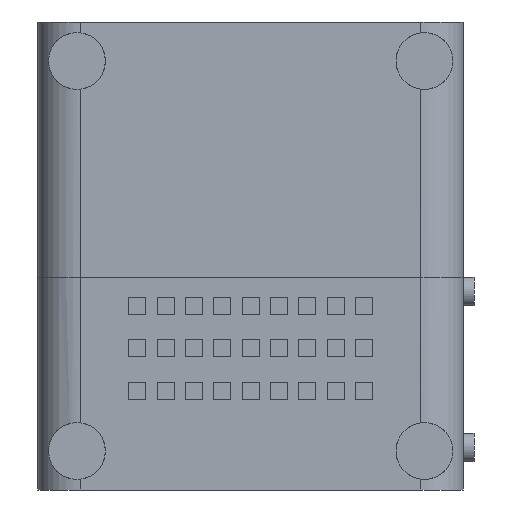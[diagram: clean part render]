
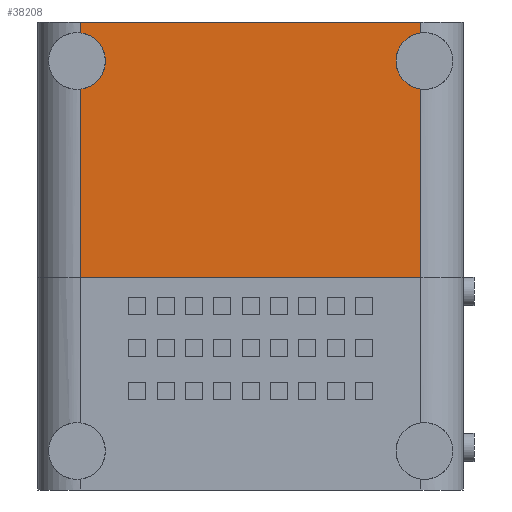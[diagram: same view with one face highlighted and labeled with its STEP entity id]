
A CAD part, front view. The second image highlights one B-rep face of the part: STEP entity #38208.
In plain terms, the highlighted planar face has unit normal (0, -1, 0).
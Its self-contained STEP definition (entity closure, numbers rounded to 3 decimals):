
#37822 = CYLINDRICAL_SURFACE('',#37823,4.);
#37823 = AXIS2_PLACEMENT_3D('',#37824,#37825,#37826);
#37824 = CARTESIAN_POINT('',(54.5,-2.,60.5));
#37825 = DIRECTION('',(0.,1.,0.));
#37826 = DIRECTION('',(0.,-0.,1.));
#37868 = CYLINDRICAL_SURFACE('',#37869,6.);
#37869 = AXIS2_PLACEMENT_3D('',#37870,#37871,#37872);
#37870 = CARTESIAN_POINT('',(54.,6.,30.));
#37871 = DIRECTION('',(-0.,-0.,-1.));
#37872 = DIRECTION('',(0.,-1.,0.));
#37935 = VERTEX_POINT('',#37936);
#37936 = CARTESIAN_POINT('',(54.,0.,64.469));
#37972 = EDGE_CURVE('',#37973,#37935,#37975,.T.);
#37973 = VERTEX_POINT('',#37974);
#37974 = CARTESIAN_POINT('',(54.,0.,56.531));
#37975 = SURFACE_CURVE('',#37976,(#37981,#37988),.PCURVE_S1.);
#37976 = CIRCLE('',#37977,4.);
#37977 = AXIS2_PLACEMENT_3D('',#37978,#37979,#37980);
#37978 = CARTESIAN_POINT('',(54.5,0.,60.5));
#37979 = DIRECTION('',(0.,1.,0.));
#37980 = DIRECTION('',(0.,-0.,1.));
#37981 = PCURVE('',#37822,#37982);
#37982 = DEFINITIONAL_REPRESENTATION('',(#37983),#37987);
#37983 = LINE('',#37984,#37985);
#37984 = CARTESIAN_POINT('',(0.,2.));
#37985 = VECTOR('',#37986,1.);
#37986 = DIRECTION('',(1.,0.));
#37987 = ( GEOMETRIC_REPRESENTATION_CONTEXT(2) 
PARAMETRIC_REPRESENTATION_CONTEXT() REPRESENTATION_CONTEXT('2D SPACE',''
  ) );
#37988 = PCURVE('',#37989,#37994);
#37989 = PLANE('',#37990);
#37990 = AXIS2_PLACEMENT_3D('',#37991,#37992,#37993);
#37991 = CARTESIAN_POINT('',(6.,0.,30.));
#37992 = DIRECTION('',(0.,1.,0.));
#37993 = DIRECTION('',(1.,0.,0.));
#37994 = DEFINITIONAL_REPRESENTATION('',(#37995),#37999);
#37995 = CIRCLE('',#37996,4.);
#37996 = AXIS2_PLACEMENT_2D('',#37997,#37998);
#37997 = CARTESIAN_POINT('',(48.5,-30.5));
#37998 = DIRECTION('',(0.,-1.));
#37999 = ( GEOMETRIC_REPRESENTATION_CONTEXT(2) 
PARAMETRIC_REPRESENTATION_CONTEXT() REPRESENTATION_CONTEXT('2D SPACE',''
  ) );
#38076 = VERTEX_POINT('',#38077);
#38077 = CARTESIAN_POINT('',(54.,0.,30.));
#38094 = PLANE('',#38095);
#38095 = AXIS2_PLACEMENT_3D('',#38096,#38097,#38098);
#38096 = CARTESIAN_POINT('',(30.,46.,30.));
#38097 = DIRECTION('',(0.,0.,1.));
#38098 = DIRECTION('',(1.,0.,-0.));
#38106 = EDGE_CURVE('',#38076,#37973,#38107,.T.);
#38107 = SURFACE_CURVE('',#38108,(#38112,#38119),.PCURVE_S1.);
#38108 = LINE('',#38109,#38110);
#38109 = CARTESIAN_POINT('',(54.,0.,30.));
#38110 = VECTOR('',#38111,1.);
#38111 = DIRECTION('',(0.,0.,1.));
#38112 = PCURVE('',#37868,#38113);
#38113 = DEFINITIONAL_REPRESENTATION('',(#38114),#38118);
#38114 = LINE('',#38115,#38116);
#38115 = CARTESIAN_POINT('',(-0.,0.));
#38116 = VECTOR('',#38117,1.);
#38117 = DIRECTION('',(-0.,-1.));
#38118 = ( GEOMETRIC_REPRESENTATION_CONTEXT(2) 
PARAMETRIC_REPRESENTATION_CONTEXT() REPRESENTATION_CONTEXT('2D SPACE',''
  ) );
#38119 = PCURVE('',#37989,#38120);
#38120 = DEFINITIONAL_REPRESENTATION('',(#38121),#38125);
#38121 = LINE('',#38122,#38123);
#38122 = CARTESIAN_POINT('',(48.,0.));
#38123 = VECTOR('',#38124,1.);
#38124 = DIRECTION('',(0.,-1.));
#38125 = ( GEOMETRIC_REPRESENTATION_CONTEXT(2) 
PARAMETRIC_REPRESENTATION_CONTEXT() REPRESENTATION_CONTEXT('2D SPACE',''
  ) );
#38131 = EDGE_CURVE('',#37935,#38132,#38134,.T.);
#38132 = VERTEX_POINT('',#38133);
#38133 = CARTESIAN_POINT('',(54.,0.,66.));
#38134 = SURFACE_CURVE('',#38135,(#38139,#38146),.PCURVE_S1.);
#38135 = LINE('',#38136,#38137);
#38136 = CARTESIAN_POINT('',(54.,0.,30.));
#38137 = VECTOR('',#38138,1.);
#38138 = DIRECTION('',(0.,0.,1.));
#38139 = PCURVE('',#37868,#38140);
#38140 = DEFINITIONAL_REPRESENTATION('',(#38141),#38145);
#38141 = LINE('',#38142,#38143);
#38142 = CARTESIAN_POINT('',(-0.,0.));
#38143 = VECTOR('',#38144,1.);
#38144 = DIRECTION('',(-0.,-1.));
#38145 = ( GEOMETRIC_REPRESENTATION_CONTEXT(2) 
PARAMETRIC_REPRESENTATION_CONTEXT() REPRESENTATION_CONTEXT('2D SPACE',''
  ) );
#38146 = PCURVE('',#37989,#38147);
#38147 = DEFINITIONAL_REPRESENTATION('',(#38148),#38152);
#38148 = LINE('',#38149,#38150);
#38149 = CARTESIAN_POINT('',(48.,0.));
#38150 = VECTOR('',#38151,1.);
#38151 = DIRECTION('',(0.,-1.));
#38152 = ( GEOMETRIC_REPRESENTATION_CONTEXT(2) 
PARAMETRIC_REPRESENTATION_CONTEXT() REPRESENTATION_CONTEXT('2D SPACE',''
  ) );
#38171 = PLANE('',#38172);
#38172 = AXIS2_PLACEMENT_3D('',#38173,#38174,#38175);
#38173 = CARTESIAN_POINT('',(30.,46.,66.));
#38174 = DIRECTION('',(0.,0.,1.));
#38175 = DIRECTION('',(1.,0.,-0.));
#38208 = ADVANCED_FACE('',(#38209),#37989,.F.);
#38209 = FACE_BOUND('',#38210,.F.);
#38210 = EDGE_LOOP('',(#38211,#38234,#38262,#38291,#38314,#38335,#38336,
    #38337));
#38211 = ORIENTED_EDGE('',*,*,#38212,.F.);
#38212 = EDGE_CURVE('',#38213,#38076,#38215,.T.);
#38213 = VERTEX_POINT('',#38214);
#38214 = CARTESIAN_POINT('',(6.,0.,30.));
#38215 = SURFACE_CURVE('',#38216,(#38220,#38227),.PCURVE_S1.);
#38216 = LINE('',#38217,#38218);
#38217 = CARTESIAN_POINT('',(6.,0.,30.));
#38218 = VECTOR('',#38219,1.);
#38219 = DIRECTION('',(1.,0.,0.));
#38220 = PCURVE('',#37989,#38221);
#38221 = DEFINITIONAL_REPRESENTATION('',(#38222),#38226);
#38222 = LINE('',#38223,#38224);
#38223 = CARTESIAN_POINT('',(0.,0.));
#38224 = VECTOR('',#38225,1.);
#38225 = DIRECTION('',(1.,0.));
#38226 = ( GEOMETRIC_REPRESENTATION_CONTEXT(2) 
PARAMETRIC_REPRESENTATION_CONTEXT() REPRESENTATION_CONTEXT('2D SPACE',''
  ) );
#38227 = PCURVE('',#38094,#38228);
#38228 = DEFINITIONAL_REPRESENTATION('',(#38229),#38233);
#38229 = LINE('',#38230,#38231);
#38230 = CARTESIAN_POINT('',(-24.,-46.));
#38231 = VECTOR('',#38232,1.);
#38232 = DIRECTION('',(1.,0.));
#38233 = ( GEOMETRIC_REPRESENTATION_CONTEXT(2) 
PARAMETRIC_REPRESENTATION_CONTEXT() REPRESENTATION_CONTEXT('2D SPACE',''
  ) );
#38234 = ORIENTED_EDGE('',*,*,#38235,.T.);
#38235 = EDGE_CURVE('',#38213,#38236,#38238,.T.);
#38236 = VERTEX_POINT('',#38237);
#38237 = CARTESIAN_POINT('',(6.,0.,56.531));
#38238 = SURFACE_CURVE('',#38239,(#38243,#38250),.PCURVE_S1.);
#38239 = LINE('',#38240,#38241);
#38240 = CARTESIAN_POINT('',(6.,0.,30.));
#38241 = VECTOR('',#38242,1.);
#38242 = DIRECTION('',(0.,0.,1.));
#38243 = PCURVE('',#37989,#38244);
#38244 = DEFINITIONAL_REPRESENTATION('',(#38245),#38249);
#38245 = LINE('',#38246,#38247);
#38246 = CARTESIAN_POINT('',(0.,0.));
#38247 = VECTOR('',#38248,1.);
#38248 = DIRECTION('',(0.,-1.));
#38249 = ( GEOMETRIC_REPRESENTATION_CONTEXT(2) 
PARAMETRIC_REPRESENTATION_CONTEXT() REPRESENTATION_CONTEXT('2D SPACE',''
  ) );
#38250 = PCURVE('',#38251,#38256);
#38251 = CYLINDRICAL_SURFACE('',#38252,6.);
#38252 = AXIS2_PLACEMENT_3D('',#38253,#38254,#38255);
#38253 = CARTESIAN_POINT('',(6.,6.,30.));
#38254 = DIRECTION('',(-0.,-0.,-1.));
#38255 = DIRECTION('',(-1.,0.,0.));
#38256 = DEFINITIONAL_REPRESENTATION('',(#38257),#38261);
#38257 = LINE('',#38258,#38259);
#38258 = CARTESIAN_POINT('',(-1.571,0.));
#38259 = VECTOR('',#38260,1.);
#38260 = DIRECTION('',(-0.,-1.));
#38261 = ( GEOMETRIC_REPRESENTATION_CONTEXT(2) 
PARAMETRIC_REPRESENTATION_CONTEXT() REPRESENTATION_CONTEXT('2D SPACE',''
  ) );
#38262 = ORIENTED_EDGE('',*,*,#38263,.F.);
#38263 = EDGE_CURVE('',#38264,#38236,#38266,.T.);
#38264 = VERTEX_POINT('',#38265);
#38265 = CARTESIAN_POINT('',(6.,0.,64.469));
#38266 = SURFACE_CURVE('',#38267,(#38272,#38279),.PCURVE_S1.);
#38267 = CIRCLE('',#38268,4.);
#38268 = AXIS2_PLACEMENT_3D('',#38269,#38270,#38271);
#38269 = CARTESIAN_POINT('',(5.5,0.,60.5));
#38270 = DIRECTION('',(0.,1.,0.));
#38271 = DIRECTION('',(0.,-0.,1.));
#38272 = PCURVE('',#37989,#38273);
#38273 = DEFINITIONAL_REPRESENTATION('',(#38274),#38278);
#38274 = CIRCLE('',#38275,4.);
#38275 = AXIS2_PLACEMENT_2D('',#38276,#38277);
#38276 = CARTESIAN_POINT('',(-0.5,-30.5));
#38277 = DIRECTION('',(0.,-1.));
#38278 = ( GEOMETRIC_REPRESENTATION_CONTEXT(2) 
PARAMETRIC_REPRESENTATION_CONTEXT() REPRESENTATION_CONTEXT('2D SPACE',''
  ) );
#38279 = PCURVE('',#38280,#38285);
#38280 = CYLINDRICAL_SURFACE('',#38281,4.);
#38281 = AXIS2_PLACEMENT_3D('',#38282,#38283,#38284);
#38282 = CARTESIAN_POINT('',(5.5,-2.,60.5));
#38283 = DIRECTION('',(0.,1.,0.));
#38284 = DIRECTION('',(0.,-0.,1.));
#38285 = DEFINITIONAL_REPRESENTATION('',(#38286),#38290);
#38286 = LINE('',#38287,#38288);
#38287 = CARTESIAN_POINT('',(0.,2.));
#38288 = VECTOR('',#38289,1.);
#38289 = DIRECTION('',(1.,0.));
#38290 = ( GEOMETRIC_REPRESENTATION_CONTEXT(2) 
PARAMETRIC_REPRESENTATION_CONTEXT() REPRESENTATION_CONTEXT('2D SPACE',''
  ) );
#38291 = ORIENTED_EDGE('',*,*,#38292,.T.);
#38292 = EDGE_CURVE('',#38264,#38293,#38295,.T.);
#38293 = VERTEX_POINT('',#38294);
#38294 = CARTESIAN_POINT('',(6.,0.,66.));
#38295 = SURFACE_CURVE('',#38296,(#38300,#38307),.PCURVE_S1.);
#38296 = LINE('',#38297,#38298);
#38297 = CARTESIAN_POINT('',(6.,0.,30.));
#38298 = VECTOR('',#38299,1.);
#38299 = DIRECTION('',(0.,0.,1.));
#38300 = PCURVE('',#37989,#38301);
#38301 = DEFINITIONAL_REPRESENTATION('',(#38302),#38306);
#38302 = LINE('',#38303,#38304);
#38303 = CARTESIAN_POINT('',(0.,0.));
#38304 = VECTOR('',#38305,1.);
#38305 = DIRECTION('',(0.,-1.));
#38306 = ( GEOMETRIC_REPRESENTATION_CONTEXT(2) 
PARAMETRIC_REPRESENTATION_CONTEXT() REPRESENTATION_CONTEXT('2D SPACE',''
  ) );
#38307 = PCURVE('',#38251,#38308);
#38308 = DEFINITIONAL_REPRESENTATION('',(#38309),#38313);
#38309 = LINE('',#38310,#38311);
#38310 = CARTESIAN_POINT('',(-1.571,0.));
#38311 = VECTOR('',#38312,1.);
#38312 = DIRECTION('',(-0.,-1.));
#38313 = ( GEOMETRIC_REPRESENTATION_CONTEXT(2) 
PARAMETRIC_REPRESENTATION_CONTEXT() REPRESENTATION_CONTEXT('2D SPACE',''
  ) );
#38314 = ORIENTED_EDGE('',*,*,#38315,.T.);
#38315 = EDGE_CURVE('',#38293,#38132,#38316,.T.);
#38316 = SURFACE_CURVE('',#38317,(#38321,#38328),.PCURVE_S1.);
#38317 = LINE('',#38318,#38319);
#38318 = CARTESIAN_POINT('',(6.,0.,66.));
#38319 = VECTOR('',#38320,1.);
#38320 = DIRECTION('',(1.,0.,0.));
#38321 = PCURVE('',#37989,#38322);
#38322 = DEFINITIONAL_REPRESENTATION('',(#38323),#38327);
#38323 = LINE('',#38324,#38325);
#38324 = CARTESIAN_POINT('',(0.,-36.));
#38325 = VECTOR('',#38326,1.);
#38326 = DIRECTION('',(1.,0.));
#38327 = ( GEOMETRIC_REPRESENTATION_CONTEXT(2) 
PARAMETRIC_REPRESENTATION_CONTEXT() REPRESENTATION_CONTEXT('2D SPACE',''
  ) );
#38328 = PCURVE('',#38171,#38329);
#38329 = DEFINITIONAL_REPRESENTATION('',(#38330),#38334);
#38330 = LINE('',#38331,#38332);
#38331 = CARTESIAN_POINT('',(-24.,-46.));
#38332 = VECTOR('',#38333,1.);
#38333 = DIRECTION('',(1.,0.));
#38334 = ( GEOMETRIC_REPRESENTATION_CONTEXT(2) 
PARAMETRIC_REPRESENTATION_CONTEXT() REPRESENTATION_CONTEXT('2D SPACE',''
  ) );
#38335 = ORIENTED_EDGE('',*,*,#38131,.F.);
#38336 = ORIENTED_EDGE('',*,*,#37972,.F.);
#38337 = ORIENTED_EDGE('',*,*,#38106,.F.);
